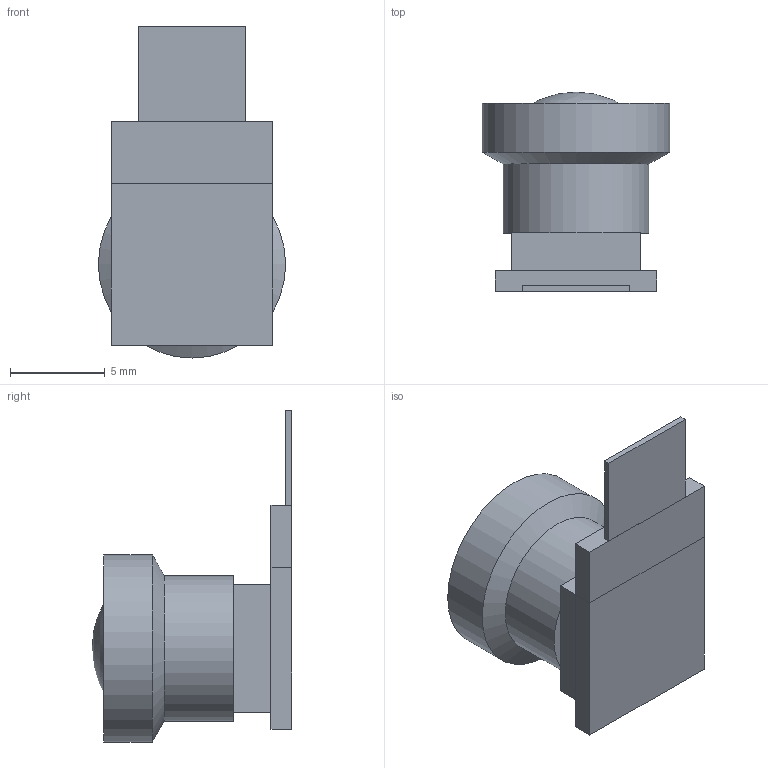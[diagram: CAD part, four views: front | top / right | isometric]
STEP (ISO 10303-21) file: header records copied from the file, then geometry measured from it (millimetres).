
FILE_DESCRIPTION(('Open CASCADE Model'),'2;1');
FILE_NAME('ov5647-fisheye-camera-exterior.step','2026-11-14T14:29:29',( 'Author'),('Open CASCADE'),'Open CASCADE STEP processor 8.0', 'Open CASCADE 8.0','Unknown');
FILE_SCHEMA(('AP242_MANAGED_MODEL_BASED_3D_ENGINEERING_MIM_LF {1 0 10303 442 1 1 4 }' ));
Length unit declared in the file: millimetre
Products named in the file (1): OV5647 Fisheye Camera Exterior
Bounding box: 9.9 x 10.55 x 17.55 mm (x, y, z)
Volume: 564.4 mm3; surface area: 1186.9 mm2
Topology: 8 solids, 8 shells, 37 faces, 63 edges, 42 vertices
Faces by surface type: plane 32, cylinder 3, cone 1, sphere 1
Full cylindrical faces by diameter (mm): 7.5 x1, 7.7 x1, 9.9 x1
Entity records: 1727 total; most frequent: DIRECTION 272, CARTESIAN_POINT 266, LINE 167, VECTOR 167, ORIENTED_EDGE 124, PCURVE 124, DEFINITIONAL_REPRESENTATION 124, EDGE_CURVE 62
